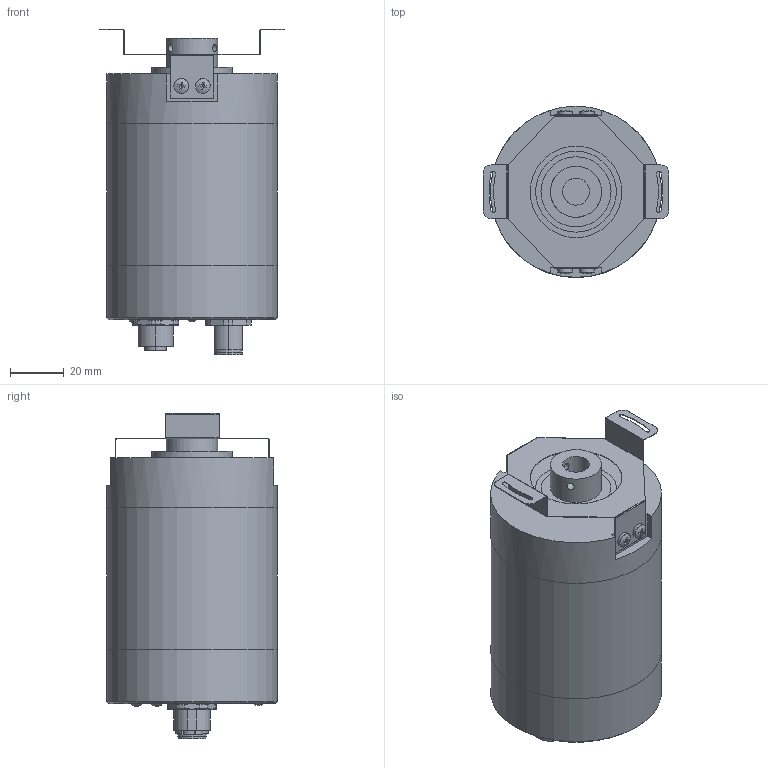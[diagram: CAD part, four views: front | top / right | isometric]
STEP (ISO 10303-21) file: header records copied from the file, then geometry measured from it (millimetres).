
FILE_DESCRIPTION(/* description */ ('Alibre Inc.'),/* implementation_level */ '2;1');
FILE_NAME(/* name */ 'export0',/* time_stamp */ '2010-05-25T09:14:04-04:00',/* author */ (''),/* organization */ (''),/* preprocessor_version */ 'ST-DEVELOPER v10',/* originating_system */ 'Alibre',/* authorisation */ '');
FILE_SCHEMA (('CONFIG_CONTROL_DESIGN'));
Length unit declared in the file: centimetre
Products named in the file (14): ID_1; ID_2; ID_3; ID_4; ID_5; ID_6; ID_7; ID_8; ID_9; ID_10; ID_11; ID_12
Bounding box: 69 x 63.5 x 120.87 mm (x, y, z)
Volume: 287803.9 mm3; surface area: 58361.5 mm2
Topology: 16 solids, 16 shells, 447 faces, 1056 edges, 689 vertices
Faces by surface type: plane 173, cylinder 152, bspline 76, cone 35, sphere 8, torus 3
Full cylindrical faces by diameter (mm): 2.87 x11, 2.92 x2, 3 x20, 3.2 x4, 3.96 x4, 5.44 x4, 10 x1, 11.5 x1, 19 x3, 20 x2, 24 x2, 26 x2, 30 x1, 34 x1, 37 x2, 58.72 x2, 63.5 x3
Entity records: 12404 total; most frequent: CARTESIAN_POINT 2752, DIRECTION 1620, ORIENTED_EDGE 1576, EDGE_CURVE 788, AXIS2_PLACEMENT_3D 715, VERTEX_POINT 552, EDGE_LOOP 518, FACE_BOUND 518
